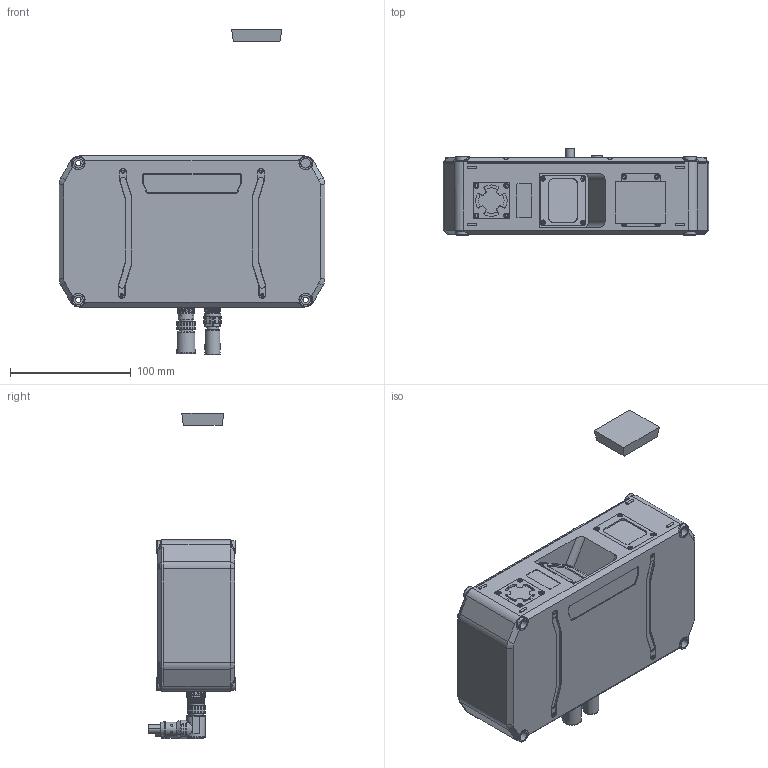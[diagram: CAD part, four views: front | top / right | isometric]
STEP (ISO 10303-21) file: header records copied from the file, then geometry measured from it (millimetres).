
FILE_DESCRIPTION((''),'2;1');
FILE_NAME('DS5040-02H-SPEC','2026-01-12T18:39:41',('shiqiangsheng5'),(''),'CREO PARAMETRIC BY PTC INC, 2020044','CREO PARAMETRIC BY PTC INC, 2020044','');
FILE_SCHEMA(('AUTOMOTIVE_DESIGN { 1 0 10303 214 1 1 1 1 }'));
Products named in the file (1): DS5040-02H-SPEC
Bounding box: 220 x 71.78 x 269.6 mm (x, y, z)
Volume: 13366.9 mm3; surface area: 121002.9 mm2
Topology: 1 solids, 86 shells, 1448 faces, 4715 edges, 3304 vertices
Faces by surface type: plane 604, cylinder 436, cone 234, bspline 95, torus 79
Entity records: 93939 total; most frequent: CARTESIAN_POINT 53779, ORIENTED_EDGE 8028, DIRECTION 7962, EDGE_CURVE 4679, VERTEX_POINT 3304, AXIS2_PLACEMENT_3D 2902, VECTOR 2158, LINE 2158
